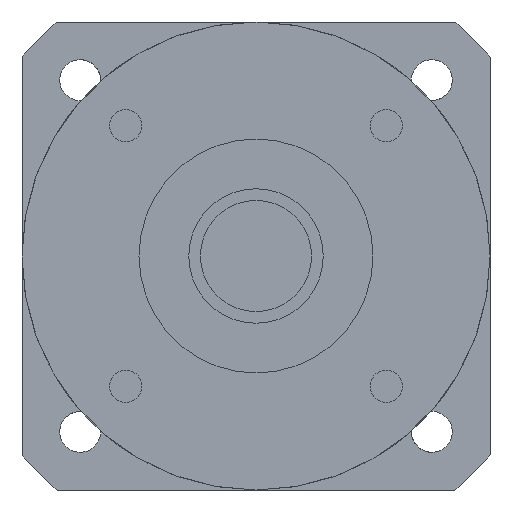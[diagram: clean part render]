
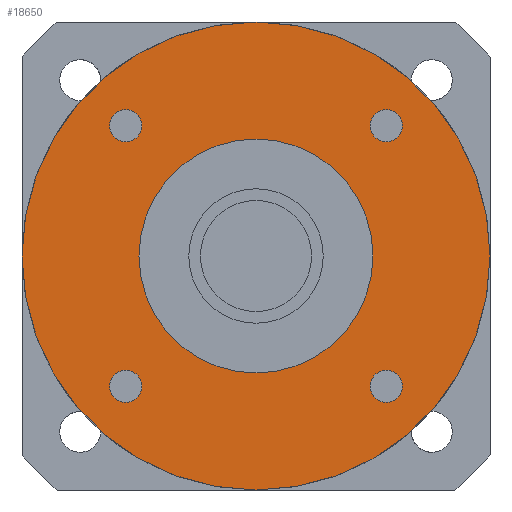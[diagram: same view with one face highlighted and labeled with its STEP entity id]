
A CAD part, left-side view. The second image highlights one B-rep face of the part: STEP entity #18650.
In plain terms, the highlighted planar face has unit normal (-1, 0, 0) as drawn and (0, 0, -1) by its records, which use the part's own axes.
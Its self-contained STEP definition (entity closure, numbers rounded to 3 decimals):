
#17510=CARTESIAN_POINT('',(-40.,0.,-42.));
#17520=VERTEX_POINT('',#17510);
#17610=CARTESIAN_POINT('',(40.,0.,-42.));
#17620=VERTEX_POINT('',#17610);
#17650=CARTESIAN_POINT('',(0.,0.,-42.)
);
#17660=DIRECTION('',(0.,0.,1.));
#17670=DIRECTION('',(1.,0.,0.));
#17680=AXIS2_PLACEMENT_3D('',#17650,#17660,#17670);
#17690=CIRCLE('',#17680,40.);
#17700=CARTESIAN_POINT('',(0.,-40.,-42.));
#17710=VERTEX_POINT('',#17700);
#17720=EDGE_CURVE('',#17710,#17620,#17690,.T.);
#17740=EDGE_CURVE('',#17520,#17710,#17690,.T.);
#17790=CARTESIAN_POINT('',(0.,0.,-42.)
);
#17800=DIRECTION('',(0.,0.,-1.));
#17810=DIRECTION('',(1.,0.,0.));
#17820=AXIS2_PLACEMENT_3D('',#17790,#17800,#17810);
#17830=PLANE('',#17820);
#17840=CARTESIAN_POINT('',(22.274,22.274,-42.));
#17850=DIRECTION('',(0.,0.,-1.));
#17860=DIRECTION('',(0.,1.,0.));
#17870=AXIS2_PLACEMENT_3D('',#17840,#17850,#17860);
#17880=CIRCLE('',#17870,2.75);
#17890=CARTESIAN_POINT('',(22.274,25.024,-42.));
#17900=VERTEX_POINT('',#17890);
#17910=CARTESIAN_POINT('',(22.274,19.524,-42.));
#17920=VERTEX_POINT('',#17910);
#17930=EDGE_CURVE('',#17900,#17920,#17880,.T.);
#17940=ORIENTED_EDGE('',*,*,#17930,.F.);
#17950=EDGE_CURVE('',#17920,#17900,#17880,.T.);
#17960=ORIENTED_EDGE('',*,*,#17950,.F.);
#17970=EDGE_LOOP('',(#17960,#17940));
#17980=FACE_BOUND('',#17970,.T.);
#17990=CARTESIAN_POINT('',(-22.274,22.274,-42.));
#18000=DIRECTION('',(0.,0.,-1.));
#18010=DIRECTION('',(-1.,0.,0.));
#18020=AXIS2_PLACEMENT_3D('',#17990,#18000,#18010);
#18030=CIRCLE('',#18020,2.75);
#18040=CARTESIAN_POINT('',(-25.024,22.274,-42.));
#18050=VERTEX_POINT('',#18040);
#18060=CARTESIAN_POINT('',(-19.524,22.274,-42.));
#18070=VERTEX_POINT('',#18060);
#18080=EDGE_CURVE('',#18050,#18070,#18030,.T.);
#18090=ORIENTED_EDGE('',*,*,#18080,.F.);
#18100=EDGE_CURVE('',#18070,#18050,#18030,.T.);
#18110=ORIENTED_EDGE('',*,*,#18100,.F.);
#18120=EDGE_LOOP('',(#18110,#18090));
#18130=FACE_BOUND('',#18120,.T.);
#18140=CARTESIAN_POINT('',(-22.274,-22.274,-42.));
#18150=DIRECTION('',(0.,0.,-1.));
#18160=DIRECTION('',(0.,-1.,0.));
#18170=AXIS2_PLACEMENT_3D('',#18140,#18150,#18160);
#18180=CIRCLE('',#18170,2.75);
#18190=CARTESIAN_POINT('',(-22.274,-25.024,-42.));
#18200=VERTEX_POINT('',#18190);
#18210=CARTESIAN_POINT('',(-22.274,-19.524,-42.));
#18220=VERTEX_POINT('',#18210);
#18230=EDGE_CURVE('',#18200,#18220,#18180,.T.);
#18240=ORIENTED_EDGE('',*,*,#18230,.F.);
#18250=EDGE_CURVE('',#18220,#18200,#18180,.T.);
#18260=ORIENTED_EDGE('',*,*,#18250,.F.);
#18270=EDGE_LOOP('',(#18260,#18240));
#18280=FACE_BOUND('',#18270,.T.);
#18290=CARTESIAN_POINT('',(0.,0.,
-42.));
#18300=DIRECTION('',(0.,0.,-1.));
#18310=DIRECTION('',(-1.,0.,0.));
#18320=AXIS2_PLACEMENT_3D('',#18290,#18300,#18310);
#18330=CIRCLE('',#18320,20.);
#18340=CARTESIAN_POINT('',(-20.,0.,-42.));
#18350=VERTEX_POINT('',#18340);
#18360=CARTESIAN_POINT('',(20.,0.,-42.));
#18370=VERTEX_POINT('',#18360);
#18380=EDGE_CURVE('',#18350,#18370,#18330,.T.);
#18390=ORIENTED_EDGE('',*,*,#18380,.F.);
#18400=EDGE_CURVE('',#18370,#18350,#18330,.T.);
#18410=ORIENTED_EDGE('',*,*,#18400,.F.);
#18420=EDGE_LOOP('',(#18410,#18390));
#18430=FACE_BOUND('',#18420,.T.);
#18440=CARTESIAN_POINT('',(22.274,-22.274,-42.));
#18450=DIRECTION('',(0.,0.,-1.));
#18460=DIRECTION('',(1.,0.,0.));
#18470=AXIS2_PLACEMENT_3D('',#18440,#18450,#18460);
#18480=CIRCLE('',#18470,2.75);
#18490=CARTESIAN_POINT('',(25.024,-22.274,-42.));
#18500=VERTEX_POINT('',#18490);
#18510=CARTESIAN_POINT('',(19.524,-22.274,-42.));
#18520=VERTEX_POINT('',#18510);
#18530=EDGE_CURVE('',#18500,#18520,#18480,.T.);
#18540=ORIENTED_EDGE('',*,*,#18530,.F.);
#18550=EDGE_CURVE('',#18520,#18500,#18480,.T.);
#18560=ORIENTED_EDGE('',*,*,#18550,.F.);
#18570=EDGE_LOOP('',(#18560,#18540));
#18580=FACE_BOUND('',#18570,.T.);
#18590=ORIENTED_EDGE('',*,*,#17720,.F.);
#18600=EDGE_CURVE('',#17620,#17520,#17690,.T.);
#18610=ORIENTED_EDGE('',*,*,#18600,.F.);
#18620=ORIENTED_EDGE('',*,*,#17740,.F.);
#18630=EDGE_LOOP('',(#18620,#18610,#18590));
#18640=FACE_OUTER_BOUND('',#18630,.T.);
#18650=ADVANCED_FACE('',(#17980,#18130,#18280,#18430,#18580,#18640),
#17830,.T.);
